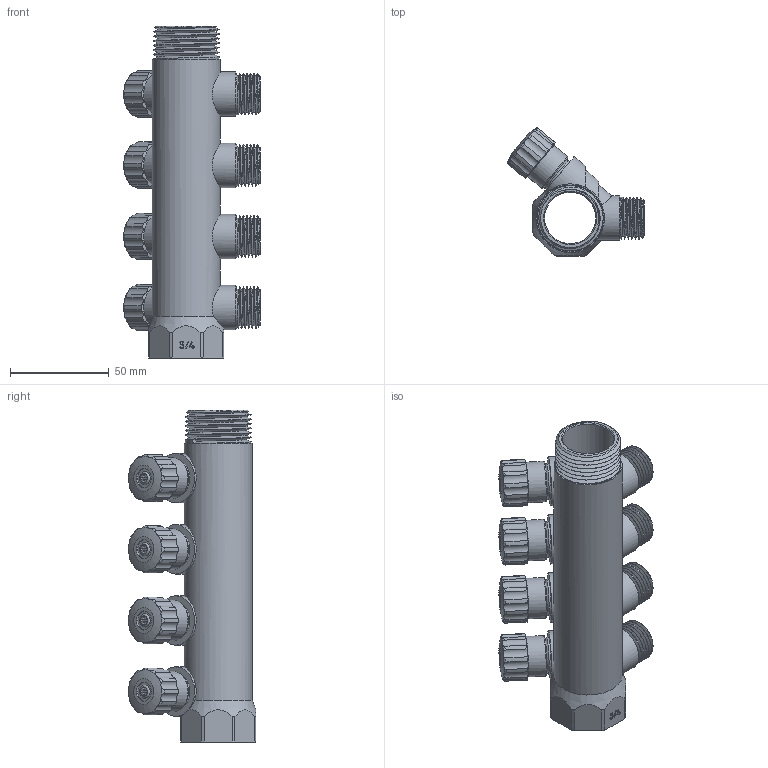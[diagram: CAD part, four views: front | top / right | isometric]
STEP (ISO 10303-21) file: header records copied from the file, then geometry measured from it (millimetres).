
FILE_DESCRIPTION(/* description */ (''),/* implementation_level */ '2;1');
FILE_NAME(/* name */ 'H:\Мишенин_3D\Исходные файлы 3D\VTc.560.N.0604.stp',/* time_stamp */ '2019-07-24T16:25:52+03:00',/* author */ ('misheninal'),/* organization */ (''),/* preprocessor_version */ 'ST-DEVELOPER v18',/* originating_system */ 'Autodesk Inventor 2020',/* authorisation */ '');
FILE_SCHEMA (('AUTOMOTIVE_DESIGN { 1 0 10303 214 3 1 1 }'));
Length unit declared in the file: millimetre
Products named in the file (1): VT.580_3%4_1%2-4
Bounding box: 69.21 x 64.75 x 168 mm (x, y, z)
Volume: 112507.1 mm3; surface area: 61843.9 mm2
Topology: 1 solids, 1 shells, 565 faces, 1611 edges, 1088 vertices
Faces by surface type: cylinder 254, plane 159, bspline 62, torus 58, cone 32
Full cylindrical faces by diameter (mm): 9.679 x4, 10.5 x4, 15.1 x4, 16.1 x4, 17.4 x24, 18.621 x4, 20.621 x4, 21 x20, 22.5 x4, 25 x3, 26 x1, 28 x1, 28.7 x6, 30.3 x3, 33.3 x6, 33.8 x1, 34.5 x1, 34.9 x4
Entity records: 31873 total; most frequent: CARTESIAN_POINT 17853, ORIENTED_EDGE 3222, DIRECTION 2549, EDGE_CURVE 1611, VERTEX_POINT 1088, AXIS2_PLACEMENT_3D 989, EDGE_LOOP 615, LINE 571
